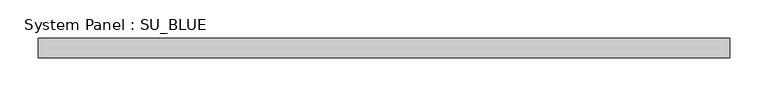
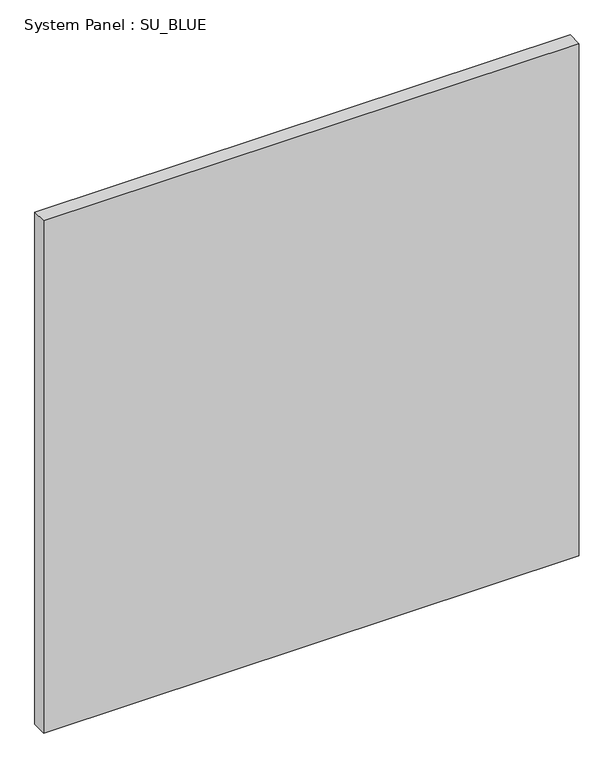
"""IFC4 building model written with IfcOpenShell, lengths in millimetres: plate geometry, System Panel : SU_BLUE."""

from ifc_helpers import new_model, si_unit, origin, origin_with_axes, place, context, project, spatial, polyline, outline, extrude, source, transform, mapped, element, save


def system_panel_su_blue_33e27b82(model_context):
    return source(origin(), model_context, "Body", "SweptSolid", [
        extrude(outline(polyline([(452.5443201, 19.05), (-452.5443201, 19.05), (-452.5443201, 44.45), (452.5443201, 44.45), (452.5443201, 19.05)])), origin_with_axes(), (0.0, 0.0, 1.0), 914.4),
    ])


if __name__ == "__main__":
    model = new_model("IFC4")
    model_context = context("Model", 3, world=origin())
    ifc_project = project(units=[si_unit("LENGTHUNIT", "METRE", prefix="MILLI")], contexts=[model_context])
    site = spatial("IfcSite", under=ifc_project)
    building = spatial("IfcBuilding", under=site)
    placement = place(None, origin())
    system_panel_su_blue_shape = system_panel_su_blue_33e27b82(model_context)
    element("IfcPlate", 1, ObjectType="System Panel : SU_BLUE", at=placement, inside=building, context=model_context, shape_type="MappedRepresentation", body=[
        mapped(system_panel_su_blue_shape, transform((0.0, 0.0, 0.0), x_axis=(1.0, 0.0, 0.0), y_axis=(0.0, 1.0, 0.0), z_axis=(0.0, 0.0, 1.0))),
    ])
    save(model, "model.ifc")
